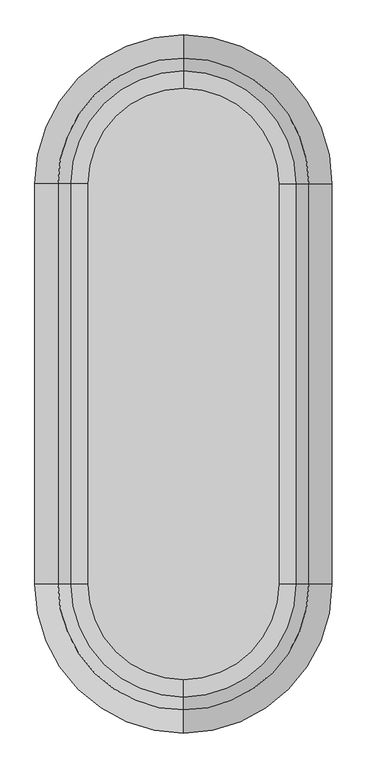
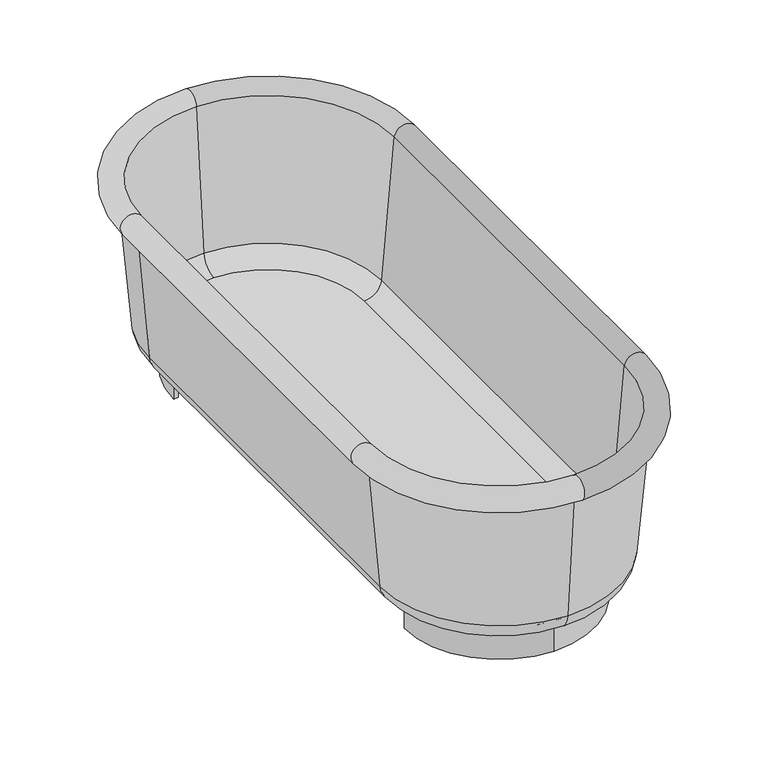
"""IFC4 building model written with IfcOpenShell, lengths in millimetres: flow terminal geometry, Baignoire sur pieds : Baignoire sur pieds 2."""

from ifc_helpers import new_model, si_unit, point, frame, frame_2d, origin, origin_with_axes, place, context, project, spatial, polyline, circle_curve, ellipse_curve, trimmed, segment, composite_curve, outline, extrude, source, transform, mapped, element, save
from ifc_brep_helpers import plane_surface, cylinder_surface, revolved_surface, advanced_brep


def flow_terminal_96d24616(model_context):
    return source(origin(), model_context, "Body", "SolidModel", [
        extrude(outline(composite_curve([segment(trimmed(circle_curve(frame_2d((0.0, 437.5)), 198.0), [point((0.0, 635.5))], [point((-198.0, 437.5))], True, "CARTESIAN"), True, "CONTINUOUS"), segment(polyline([(-198.0, 437.5), (-208.2824236, 437.5)]), True, "CONTINUOUS"), segment(trimmed(circle_curve(frame_2d((0.0, 437.5)), 208.2824236), [point((-208.2824236, 437.5))], [point((0.0, 645.7824236))], False, "CARTESIAN"), True, "CONTINUOUS"), segment(trimmed(circle_curve(frame_2d((0.0, 437.5)), 208.2824236), [point((0.0, 645.7824236))], [point((208.2824236, 437.5))], False, "CARTESIAN"), True, "CONTINUOUS"), segment(polyline([(208.2824236, 437.5), (198.0, 437.5)]), True, "CONTINUOUS"), segment(trimmed(circle_curve(frame_2d((0.0, 437.5)), 198.0), [point((198.0, 437.5))], [point((0.0, 635.5))], True, "CARTESIAN"), True, "CONTINUOUS")], self_intersect=False)), origin_with_axes(), (0.0, 0.0, 1.0), 66.3),
        extrude(outline(composite_curve([segment(trimmed(circle_curve(frame_2d((0.0, -437.5)), 208.2824236), [point((0.0, -645.7824236))], [point((-208.2824236, -437.5))], False, "CARTESIAN"), True, "CONTINUOUS"), segment(polyline([(-208.2824236, -437.5), (-198.0, -437.5)]), True, "CONTINUOUS"), segment(trimmed(circle_curve(frame_2d((0.0, -437.5)), 198.0), [point((-198.0, -437.5))], [point((0.0, -635.5))], True, "CARTESIAN"), True, "CONTINUOUS"), segment(trimmed(circle_curve(frame_2d((0.0, -437.5)), 198.0), [point((0.0, -635.5))], [point((198.0, -437.5))], True, "CARTESIAN"), True, "CONTINUOUS"), segment(polyline([(198.0, -437.5), (208.2824236, -437.5)]), True, "CONTINUOUS"), segment(trimmed(circle_curve(frame_2d((0.0, -437.5)), 208.2824236), [point((208.2824236, -437.5))], [point((0.0, -645.7824236))], False, "CARTESIAN"), True, "CONTINUOUS")], self_intersect=False)), origin_with_axes(), (0.0, 0.0, 1.0), 66.3),
        extrude(outline(composite_curve([segment(polyline([(-208.2824236, -437.5), (-208.2824236, 437.5)]), True, "CONTINUOUS"), segment(trimmed(circle_curve(frame_2d((0.0, 437.5)), 208.2824236), [point((-208.2824236, 437.5))], [point((0.0, 645.7824236))], False, "CARTESIAN"), True, "CONTINUOUS"), segment(trimmed(circle_curve(frame_2d((0.0, 437.5)), 208.2824236), [point((0.0, 645.7824236))], [point((208.2824236, 437.5))], False, "CARTESIAN"), True, "CONTINUOUS"), segment(polyline([(208.2824236, 437.5), (208.2824236, -437.5)]), True, "CONTINUOUS"), segment(trimmed(circle_curve(frame_2d((0.0, -437.5)), 208.2824236), [point((208.2824236, -437.5))], [point((0.0, -645.7824236))], False, "CARTESIAN"), True, "CONTINUOUS"), segment(trimmed(circle_curve(frame_2d((0.0, -437.5)), 208.2824236), [point((0.0, -645.7824236))], [point((-208.2824236, -437.5))], False, "CARTESIAN"), True, "CONTINUOUS")], self_intersect=False)), frame((0.0, 0.0, 66.3), z_axis=(0.0, 0.0, 1.0), x_axis=(1.0, 0.0, 0.0)), (0.0, 0.0, 1.0), 15.08125),
        advanced_brep(
        [(0.0, -724.4, 409.2), (286.9, -437.5, 409.2), (299.6, -437.5, 409.2), (0.0, -737.1, 409.2), (0.0, -698.6045038, 114.3561295), (261.1045038, -437.5, 114.3561295), (0.0, -645.7824236, 65.9536107), (208.2824236, -437.5, 65.9536107), (0.0, -645.7824236, 80.8774627), (208.2824236, -437.5, 80.8774627), (0.0, -683.7374416, 115.6568289), (246.2374416, -437.5, 115.6568289), (0.0, -711.9561556, 438.1982063), (274.4561556, -437.5, 438.1982063), (-286.9, -437.5, 409.2), (-299.6, -437.5, 409.2), (-261.1045038, -437.5, 114.3561295), (-208.2824236, -437.5, 65.9536107), (-208.2824236, -437.5, 80.8774627), (-246.2374416, -437.5, 115.6568289), (-274.4561556, -437.5, 438.1982063), (-299.6, 437.5, 409.2), (-286.9, 437.5, 409.2), (-261.1045038, 437.5, 114.3561295), (-208.2824236, 437.5, 65.9536107), (-208.2824236, 437.5, 80.8774627), (-246.2374416, 437.5, 115.6568289), (-274.4561556, 437.5, 438.1982063), (0.0, 724.4, 409.2), (0.0, 737.1, 409.2), (0.0, 698.6045038, 114.3561295), (0.0, 645.7824236, 65.9536107), (0.0, 645.7824236, 80.8774627), (0.0, 683.7374416, 115.6568289), (0.0, 711.9561556, 438.1982063), (286.9, 437.5, 409.2), (299.6, 437.5, 409.2), (261.1045038, 437.5, 114.3561295), (208.2824236, 437.5, 65.9536107), (208.2824236, 437.5, 80.8774627), (246.2374416, 437.5, 115.6568289), (274.4561556, 437.5, 438.1982063)],
        [
            (0, 1, circle_curve(frame((0.0, -437.5, 409.2), z_axis=(0.0, 0.0, 1.0), x_axis=(1.0, 0.0, 0.0)), 286.9)),
            (1, 2),
            (2, 3, circle_curve(frame((0.0, -437.5, 409.2), z_axis=(0.0, 0.0, -1.0), x_axis=(1.0, 0.0, 0.0)), 299.6)),
            (3, 0),
            (4, 5, circle_curve(frame((0.0, -437.5, 114.3561295), z_axis=(0.0, 0.0, 1.0), x_axis=(1.0, 0.0, 0.0)), 261.1045038)),
            (5, 1),
            (0, 4),
            (6, 7, circle_curve(frame((0.0, -437.5, 65.9536107), z_axis=(0.0, 0.0, 1.0), x_axis=(1.0, 0.0, 0.0)), 208.2824236)),
            (7, 5, circle_curve(frame((208.2824236, -437.5, 118.9774627), z_axis=(0.0, -1.0, 0.0), x_axis=(1.0, 0.0, 0.0)), 53.023852)),
            (4, 6, circle_curve(frame((0.0, -645.7824236, 118.9774627), z_axis=(1.0, 0.0, 0.0), x_axis=(0.0, -1.0, 0.0)), 53.023852)),
            (8, 9, circle_curve(frame((0.0, -437.5, 80.8774627), z_axis=(0.0, 0.0, 1.0), x_axis=(1.0, 0.0, 0.0)), 208.2824236)),
            (9, 7),
            (6, 8),
            (10, 11, circle_curve(frame((0.0, -437.5, 115.6568289), z_axis=(0.0, 0.0, 1.0), x_axis=(1.0, 0.0, 0.0)), 246.2374416)),
            (11, 9, circle_curve(frame((208.2824236, -437.5, 118.9774627), z_axis=(0.0, 1.0, 0.0), x_axis=(1.0, 0.0, 0.0)), 38.1)),
            (8, 10, circle_curve(frame((0.0, -645.7824236, 118.9774627), z_axis=(-1.0, 0.0, 0.0), x_axis=(0.0, -1.0, 0.0)), 38.1)),
            (12, 13, circle_curve(frame((0.0, -437.5, 438.1982063), z_axis=(0.0, 0.0, 1.0), x_axis=(1.0, 0.0, 0.0)), 274.4561556)),
            (13, 11),
            (10, 12),
            (2, 13, circle_curve(frame((299.6, -437.5, 434.6), z_axis=(0.0, -1.0, 0.0), x_axis=(1.0, 0.0, 0.0)), 25.4)),
            (12, 3, circle_curve(frame((0.0, -737.1, 434.6), z_axis=(1.0, 0.0, 0.0), x_axis=(0.0, -1.0, 0.0)), 25.4)),
            (14, 0, circle_curve(frame((0.0, -437.5, 409.2), z_axis=(0.0, 0.0, 1.0), x_axis=(0.0, -1.0, 0.0)), 286.9)),
            (3, 15, circle_curve(frame((0.0, -437.5, 409.2), z_axis=(0.0, 0.0, -1.0), x_axis=(0.0, -1.0, 0.0)), 299.6)),
            (15, 14),
            (16, 4, circle_curve(frame((0.0, -437.5, 114.3561295), z_axis=(0.0, 0.0, 1.0), x_axis=(0.0, -1.0, 0.0)), 261.1045038)),
            (14, 16),
            (17, 6, circle_curve(frame((0.0, -437.5, 65.9536107), z_axis=(0.0, 0.0, 1.0), x_axis=(0.0, -1.0, 0.0)), 208.2824236)),
            (16, 17, circle_curve(frame((-208.2824236, -437.5, 118.9774627), z_axis=(0.0, -1.0, 0.0), x_axis=(-1.0, 0.0, 0.0)), 53.023852)),
            (18, 8, circle_curve(frame((0.0, -437.5, 80.8774627), z_axis=(0.0, 0.0, 1.0), x_axis=(0.0, -1.0, 0.0)), 208.2824236)),
            (17, 18),
            (19, 10, circle_curve(frame((0.0, -437.5, 115.6568289), z_axis=(0.0, 0.0, 1.0), x_axis=(0.0, -1.0, 0.0)), 246.2374416)),
            (18, 19, circle_curve(frame((-208.2824236, -437.5, 118.9774627), z_axis=(0.0, 1.0, 0.0), x_axis=(-1.0, 0.0, 0.0)), 38.1)),
            (20, 12, circle_curve(frame((0.0, -437.5, 438.1982063), z_axis=(0.0, 0.0, 1.0), x_axis=(0.0, -1.0, 0.0)), 274.4561556)),
            (19, 20),
            (20, 15, circle_curve(frame((-299.6, -437.5, 434.6), z_axis=(0.0, -1.0, 0.0), x_axis=(-1.0, 0.0, 0.0)), 25.4)),
            (15, 21),
            (21, 22),
            (22, 14),
            (22, 23),
            (23, 16),
            (23, 24, circle_curve(frame((-208.2824236, 437.5, 118.9774627), z_axis=(0.0, -1.0, 0.0), x_axis=(-1.0, 0.0, 0.0)), 53.023852)),
            (24, 17),
            (24, 25),
            (25, 18),
            (25, 26, circle_curve(frame((-208.2824236, 437.5, 118.9774627), z_axis=(0.0, 1.0, 0.0), x_axis=(-1.0, 0.0, 0.0)), 38.1)),
            (26, 19),
            (26, 27),
            (27, 20),
            (27, 21, circle_curve(frame((-299.6, 437.5, 434.6), z_axis=(0.0, -1.0, 0.0), x_axis=(-1.0, 0.0, 0.0)), 25.4)),
            (28, 22, circle_curve(frame((0.0, 437.5, 409.2), z_axis=(0.0, 0.0, 1.0), x_axis=(-1.0, 0.0, 0.0)), 286.9)),
            (21, 29, circle_curve(frame((0.0, 437.5, 409.2), z_axis=(0.0, 0.0, -1.0), x_axis=(-1.0, 0.0, 0.0)), 299.6)),
            (29, 28),
            (30, 23, circle_curve(frame((0.0, 437.5, 114.3561295), z_axis=(0.0, 0.0, 1.0), x_axis=(-1.0, 0.0, 0.0)), 261.1045038)),
            (28, 30),
            (31, 24, circle_curve(frame((0.0, 437.5, 65.9536107), z_axis=(0.0, 0.0, 1.0), x_axis=(-1.0, 0.0, 0.0)), 208.2824236)),
            (30, 31, circle_curve(frame((0.0, 645.7824236, 118.9774627), z_axis=(-1.0, 0.0, 0.0), x_axis=(0.0, 1.0, 0.0)), 53.023852)),
            (32, 25, circle_curve(frame((0.0, 437.5, 80.8774627), z_axis=(0.0, 0.0, 1.0), x_axis=(-1.0, 0.0, 0.0)), 208.2824236)),
            (31, 32),
            (33, 26, circle_curve(frame((0.0, 437.5, 115.6568289), z_axis=(0.0, 0.0, 1.0), x_axis=(-1.0, 0.0, 0.0)), 246.2374416)),
            (32, 33, circle_curve(frame((0.0, 645.7824236, 118.9774627), z_axis=(1.0, 0.0, 0.0), x_axis=(0.0, 1.0, 0.0)), 38.1)),
            (34, 27, circle_curve(frame((0.0, 437.5, 438.1982063), z_axis=(0.0, 0.0, 1.0), x_axis=(-1.0, 0.0, 0.0)), 274.4561556)),
            (33, 34),
            (34, 29, circle_curve(frame((0.0, 737.1, 434.6), z_axis=(-1.0, 0.0, 0.0), x_axis=(0.0, 1.0, 0.0)), 25.4)),
            (35, 28, circle_curve(frame((0.0, 437.5, 409.2), z_axis=(0.0, 0.0, 1.0), x_axis=(0.0, 1.0, 0.0)), 286.9)),
            (29, 36, circle_curve(frame((0.0, 437.5, 409.2), z_axis=(0.0, 0.0, -1.0), x_axis=(0.0, 1.0, 0.0)), 299.6)),
            (36, 35),
            (37, 30, circle_curve(frame((0.0, 437.5, 114.3561295), z_axis=(0.0, 0.0, 1.0), x_axis=(0.0, 1.0, 0.0)), 261.1045038)),
            (35, 37),
            (38, 31, circle_curve(frame((0.0, 437.5, 65.9536107), z_axis=(0.0, 0.0, 1.0), x_axis=(0.0, 1.0, 0.0)), 208.2824236)),
            (37, 38, circle_curve(frame((208.2824236, 437.5, 118.9774627), z_axis=(0.0, 1.0, 0.0), x_axis=(1.0, 0.0, 0.0)), 53.023852)),
            (39, 32, circle_curve(frame((0.0, 437.5, 80.8774627), z_axis=(0.0, 0.0, 1.0), x_axis=(0.0, 1.0, 0.0)), 208.2824236)),
            (38, 39),
            (40, 33, circle_curve(frame((0.0, 437.5, 115.6568289), z_axis=(0.0, 0.0, 1.0), x_axis=(0.0, 1.0, 0.0)), 246.2374416)),
            (39, 40, circle_curve(frame((208.2824236, 437.5, 118.9774627), z_axis=(0.0, -1.0, 0.0), x_axis=(1.0, 0.0, 0.0)), 38.1)),
            (41, 34, circle_curve(frame((0.0, 437.5, 438.1982063), z_axis=(0.0, 0.0, 1.0), x_axis=(0.0, 1.0, 0.0)), 274.4561556)),
            (40, 41),
            (41, 36, circle_curve(frame((299.6, 437.5, 434.6), z_axis=(0.0, 1.0, 0.0), x_axis=(1.0, 0.0, 0.0)), 25.4)),
            (36, 2),
            (1, 35),
            (5, 37),
            (7, 38),
            (9, 39),
            (11, 40),
            (13, 41),
        ],
        [
            plane_surface(frame((0.0, -437.5, 409.2), z_axis=(0.0, 0.0, -1.0), x_axis=(1.0, 0.0, 0.0))),
            revolved_surface(polyline([(286.9, -437.5, 409.2), (261.1045038, -437.5, 114.3561295)]), (0.0, -437.5, 434.6), (0.0, 0.0, -1.0)),
            revolved_surface(trimmed(ellipse_curve(frame((208.2824236, -437.5, 118.9774627), z_axis=(0.0, 1.0, 0.0), x_axis=(1.0, 0.0, 0.0)), 53.023852, 53.023852), [point((261.1045038, -437.5, 114.3561295))], [point((208.2824236, -437.5, 65.9536107))], True, "CARTESIAN"), (0.0, -437.5, 434.6), (0.0, 0.0, -1.0)),
            revolved_surface(polyline([(208.2824236, -437.5, 65.95361070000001), (208.2824236, -437.5, 80.87746270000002)]), (0.0, -437.5, 434.6), (0.0, 0.0, -1.0)),
            revolved_surface(trimmed(ellipse_curve(frame((208.2824236, -437.5, 118.9774627), z_axis=(0.0, -1.0, 0.0), x_axis=(1.0, 0.0, 0.0)), 38.1, 38.1), [point((208.2824236, -437.5, 80.8774627))], [point((246.2374416, -437.5, 115.6568289))], True, "CARTESIAN"), (0.0, -437.5, 434.6), (0.0, 0.0, -1.0)),
            revolved_surface(polyline([(246.2374416, -437.5, 115.6568289), (274.4561556, -437.5, 438.1982063)]), (0.0, -437.5, 434.6), (0.0, 0.0, -1.0)),
            revolved_surface(trimmed(ellipse_curve(frame((299.6, -437.5, 434.6), z_axis=(0.0, 1.0, 0.0), x_axis=(1.0, 0.0, 0.0)), 25.4, 25.4), [point((274.4561556, -437.5, 438.1982063))], [point((299.6, -437.5, 409.2))], True, "CARTESIAN"), (0.0, -437.5, 434.6), (0.0, 0.0, -1.0)),
            plane_surface(frame((0.0, -437.5, 409.2), z_axis=(0.0, 0.0, -1.0), x_axis=(0.0, -1.0, 0.0))),
            revolved_surface(polyline([(0.0, -724.4, 409.2), (0.0, -698.6045038, 114.3561295)]), (0.0, -437.5, 434.6), (0.0, 0.0, -1.0)),
            revolved_surface(trimmed(ellipse_curve(frame((0.0, -645.7824236, 118.9774627), z_axis=(1.0, 0.0, 0.0), x_axis=(0.0, -1.0, 0.0)), 53.023852, 53.023852), [point((0.0, -698.6045038, 114.3561295))], [point((0.0, -645.7824236, 65.9536107))], True, "CARTESIAN"), (0.0, -437.5, 434.6), (0.0, 0.0, -1.0)),
            revolved_surface(polyline([(0.0, -645.7824236, 65.95361070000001), (0.0, -645.7824236, 80.87746270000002)]), (0.0, -437.5, 434.6), (0.0, 0.0, -1.0)),
            revolved_surface(trimmed(ellipse_curve(frame((0.0, -645.7824236, 118.9774627), z_axis=(-1.0, 0.0, 0.0), x_axis=(0.0, -1.0, 0.0)), 38.1, 38.1), [point((0.0, -645.7824236, 80.8774627))], [point((0.0, -683.7374416, 115.6568289))], True, "CARTESIAN"), (0.0, -437.5, 434.6), (0.0, 0.0, -1.0)),
            revolved_surface(polyline([(0.0, -683.7374416, 115.6568289), (0.0, -711.9561556, 438.1982063)]), (0.0, -437.5, 434.6), (0.0, 0.0, -1.0)),
            revolved_surface(trimmed(ellipse_curve(frame((0.0, -737.1, 434.6), z_axis=(1.0, 0.0, 0.0), x_axis=(0.0, -1.0, 0.0)), 25.4, 25.4), [point((0.0, -711.9561556, 438.1982063))], [point((0.0, -737.1, 409.2))], True, "CARTESIAN"), (0.0, -437.5, 434.6), (0.0, 0.0, -1.0)),
            plane_surface(frame((-299.6, -437.5, 409.2), z_axis=(0.0, 0.0, -1.0), x_axis=(0.0, 1.0, 0.0))),
            plane_surface(frame((-286.9, -437.5, 409.2), z_axis=(-0.9961946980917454, 0.0, -0.08715574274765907), x_axis=(0.0, 1.0, 0.0))),
            cylinder_surface(frame((-208.2824236, -437.5, 118.9774627), z_axis=(0.0, -1.0, 0.0), x_axis=(-1.0, 0.0, 0.0)), 53.023852),
            plane_surface(frame((-208.2824236, -437.5, 65.9536107), z_axis=(1.0, 0.0, 0.0), x_axis=(0.0, 1.0, 0.0))),
            revolved_surface(polyline([(-246.38242359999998, 437.5, 118.9774627), (-246.38242359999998, -437.5, 118.9774627)]), (-208.2824236, -437.5, 118.9774627), (0.0, 1.0, 0.0)),
            plane_surface(frame((-246.2374416, -437.5, 115.6568289), z_axis=(0.9961946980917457, 0.0, 0.08715574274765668), x_axis=(0.0, 1.0, 0.0))),
            cylinder_surface(frame((-299.6, -437.5, 434.6), z_axis=(0.0, -1.0, 0.0), x_axis=(-1.0, 0.0, 0.0)), 25.4),
            plane_surface(frame((0.0, 437.5, 409.2), z_axis=(0.0, 0.0, -1.0), x_axis=(-1.0, 0.0, 0.0))),
            revolved_surface(polyline([(-286.9, 437.5, 409.2), (-261.1045038, 437.5, 114.3561295)]), (0.0, 437.5, 434.6), (0.0, 0.0, -1.0)),
            revolved_surface(trimmed(ellipse_curve(frame((-208.2824236, 437.5, 118.9774627), z_axis=(0.0, -1.0, 0.0), x_axis=(-1.0, 0.0, 0.0)), 53.023852, 53.023852), [point((-261.1045038, 437.5, 114.3561295))], [point((-208.2824236, 437.5, 65.9536107))], True, "CARTESIAN"), (0.0, 437.5, 434.6), (0.0, 0.0, -1.0)),
            revolved_surface(polyline([(-208.2824236, 437.5, 65.95361070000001), (-208.2824236, 437.5, 80.87746270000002)]), (0.0, 437.5, 434.6), (0.0, 0.0, -1.0)),
            revolved_surface(trimmed(ellipse_curve(frame((-208.2824236, 437.5, 118.9774627), z_axis=(0.0, 1.0, 0.0), x_axis=(-1.0, 0.0, 0.0)), 38.1, 38.1), [point((-208.2824236, 437.5, 80.8774627))], [point((-246.2374416, 437.5, 115.6568289))], True, "CARTESIAN"), (0.0, 437.5, 434.6), (0.0, 0.0, -1.0)),
            revolved_surface(polyline([(-246.2374416, 437.5, 115.6568289), (-274.4561556, 437.5, 438.1982063)]), (0.0, 437.5, 434.6), (0.0, 0.0, -1.0)),
            revolved_surface(trimmed(ellipse_curve(frame((-299.6, 437.5, 434.6), z_axis=(0.0, -1.0, 0.0), x_axis=(-1.0, 0.0, 0.0)), 25.4, 25.4), [point((-274.4561556, 437.5, 438.1982063))], [point((-299.6, 437.5, 409.2))], True, "CARTESIAN"), (0.0, 437.5, 434.6), (0.0, 0.0, -1.0)),
            plane_surface(frame((0.0, 437.5, 409.2), z_axis=(0.0, 0.0, -1.0), x_axis=(0.0, 1.0, 0.0))),
            revolved_surface(polyline([(0.0, 724.4, 409.2), (0.0, 698.6045038, 114.3561295)]), (0.0, 437.5, 434.6), (0.0, 0.0, -1.0)),
            revolved_surface(trimmed(ellipse_curve(frame((0.0, 645.7824236, 118.9774627), z_axis=(-1.0, 0.0, 0.0), x_axis=(0.0, 1.0, 0.0)), 53.023852, 53.023852), [point((0.0, 698.6045038, 114.3561295))], [point((0.0, 645.7824236, 65.9536107))], True, "CARTESIAN"), (0.0, 437.5, 434.6), (0.0, 0.0, -1.0)),
            revolved_surface(polyline([(0.0, 645.7824236, 65.95361070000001), (0.0, 645.7824236, 80.87746270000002)]), (0.0, 437.5, 434.6), (0.0, 0.0, -1.0)),
            revolved_surface(trimmed(ellipse_curve(frame((0.0, 645.7824236, 118.9774627), z_axis=(1.0, 0.0, 0.0), x_axis=(0.0, 1.0, 0.0)), 38.1, 38.1), [point((0.0, 645.7824236, 80.8774627))], [point((0.0, 683.7374416, 115.6568289))], True, "CARTESIAN"), (0.0, 437.5, 434.6), (0.0, 0.0, -1.0)),
            revolved_surface(polyline([(0.0, 683.7374416, 115.6568289), (0.0, 711.9561556, 438.1982063)]), (0.0, 437.5, 434.6), (0.0, 0.0, -1.0)),
            revolved_surface(trimmed(ellipse_curve(frame((0.0, 737.1, 434.6), z_axis=(-1.0, 0.0, 0.0), x_axis=(0.0, 1.0, 0.0)), 25.4, 25.4), [point((0.0, 711.9561556, 438.1982063))], [point((0.0, 737.1, 409.2))], True, "CARTESIAN"), (0.0, 437.5, 434.6), (0.0, 0.0, -1.0)),
            plane_surface(frame((299.6, 437.5, 409.2), z_axis=(0.0, 0.0, -1.0), x_axis=(0.0, -1.0, 0.0))),
            plane_surface(frame((286.9, 437.5, 409.2), z_axis=(0.9961946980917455, 0.0, -0.08715574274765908), x_axis=(0.0, -1.0, 0.0))),
            cylinder_surface(frame((208.2824236, 437.5, 118.9774627), z_axis=(0.0, 1.0, 0.0), x_axis=(1.0, 0.0, 0.0)), 53.023852),
            plane_surface(frame((208.2824236, 437.5, 65.9536107), z_axis=(-1.0, 0.0, 0.0), x_axis=(0.0, -1.0, 0.0))),
            revolved_surface(polyline([(246.38242359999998, -437.5, 118.9774627), (246.38242359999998, 437.5, 118.9774627)]), (208.2824236, 437.5, 118.9774627), (0.0, -1.0, 0.0)),
            plane_surface(frame((246.2374416, 437.5, 115.6568289), z_axis=(-0.9961946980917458, 0.0, 0.0871557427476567), x_axis=(0.0, -1.0, 0.0))),
            cylinder_surface(frame((299.6, 437.5, 434.6), z_axis=(0.0, 1.0, 0.0), x_axis=(1.0, 0.0, 0.0)), 25.4),
        ],
        [
            (0, [[1, 2, 3, 4]]),
            (1, [[5, 6, -1, 7]]),
            (2, [[8, 9, -5, 10]]),
            (3, [[11, 12, -8, 13]]),
            (4, [[14, 15, -11, 16]]),
            (5, [[17, 18, -14, 19]]),
            (6, [[-3, 20, -17, 21]]),
            (7, [[22, -4, 23, 24]]),
            (8, [[25, -7, -22, 26]]),
            (9, [[27, -10, -25, 28]]),
            (10, [[29, -13, -27, 30]]),
            (11, [[31, -16, -29, 32]]),
            (12, [[33, -19, -31, 34]]),
            (13, [[-23, -21, -33, 35]]),
            (14, [[-24, 36, 37, 38]]),
            (15, [[-26, -38, 39, 40]]),
            (16, [[-28, -40, 41, 42]]),
            (17, [[-30, -42, 43, 44]]),
            (18, [[-32, -44, 45, 46]]),
            (19, [[-34, -46, 47, 48]]),
            (20, [[-35, -48, 49, -36]]),
            (21, [[50, -37, 51, 52]]),
            (22, [[53, -39, -50, 54]]),
            (23, [[55, -41, -53, 56]]),
            (24, [[57, -43, -55, 58]]),
            (25, [[59, -45, -57, 60]]),
            (26, [[61, -47, -59, 62]]),
            (27, [[-51, -49, -61, 63]]),
            (28, [[64, -52, 65, 66]]),
            (29, [[67, -54, -64, 68]]),
            (30, [[69, -56, -67, 70]]),
            (31, [[71, -58, -69, 72]]),
            (32, [[73, -60, -71, 74]]),
            (33, [[75, -62, -73, 76]]),
            (34, [[-65, -63, -75, 77]]),
            (35, [[-66, 78, -2, 79]]),
            (36, [[-68, -79, -6, 80]]),
            (37, [[-70, -80, -9, 81]]),
            (38, [[-72, -81, -12, 82]]),
            (39, [[-74, -82, -15, 83]]),
            (40, [[-76, -83, -18, 84]]),
            (41, [[-77, -84, -20, -78]]),
        ],
    ),
    ])


if __name__ == "__main__":
    model = new_model("IFC4")
    model_context = context("Model", 3, world=origin())
    ifc_project = project(units=[si_unit("LENGTHUNIT", "METRE", prefix="MILLI")], contexts=[model_context])
    site = spatial("IfcSite", under=ifc_project)
    building = spatial("IfcBuilding", under=site)
    placement = place(None, origin())
    flow_terminal_shape = flow_terminal_96d24616(model_context)
    element("IfcFlowTerminal", 1, ObjectType="Baignoire sur pieds : Baignoire sur pieds 2", at=placement, inside=building, context=model_context, shape_type="MappedRepresentation", body=[
        mapped(flow_terminal_shape, transform((0.0, 0.0, 0.0), x_axis=(1.0, 0.0, 0.0), y_axis=(0.0, 1.0, 0.0), z_axis=(0.0, 0.0, 1.0))),
    ])
    save(model, "model.ifc")
